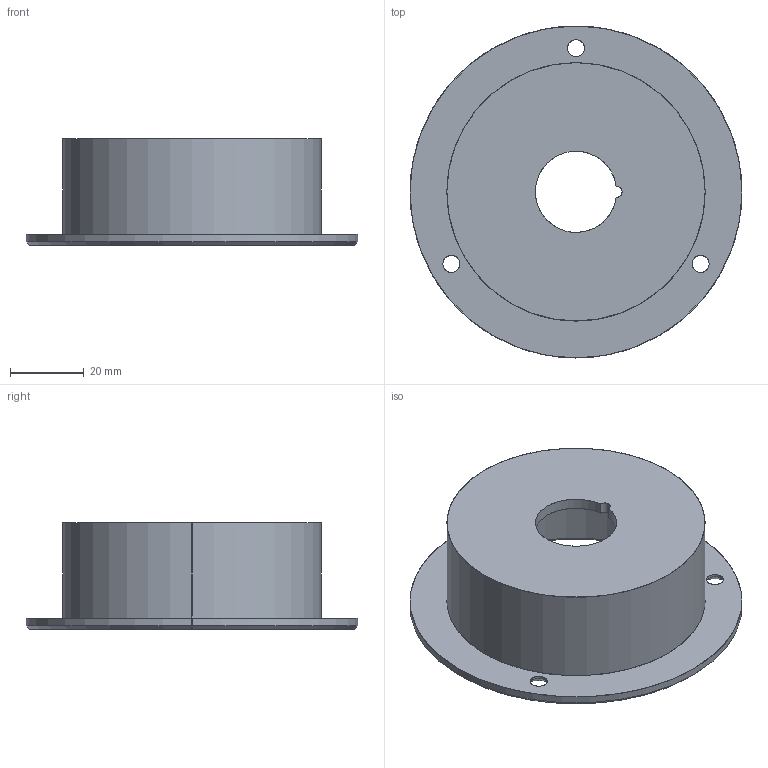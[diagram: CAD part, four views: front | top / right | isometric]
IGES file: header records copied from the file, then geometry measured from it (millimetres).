
Start section: SolidWorks IGES file using analytic representation for surfaces
Global section: file name: F:\Eksponaty -2017\Prawdziwa grometria natury\CNK-2015-00-STOP.IGS; native system: SolidWorks 2015; preprocessor: SolidWorks 2015; author: MMieczkowski; date: 210507.084630; units: millimetre
Bounding box: 90 x 90 x 29 mm (x, y, z)
Surface area: 23751.6 mm2 (no closed solid volume)
Topology: 0 solids, 0 shells, 28 faces, 768 edges, 768 vertices
Faces by surface type: revolution 24, bspline 4
